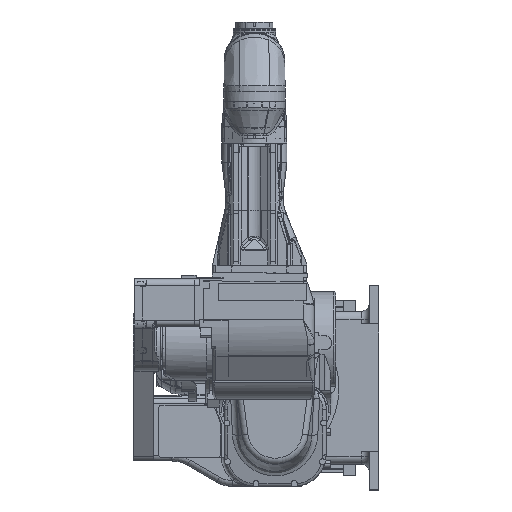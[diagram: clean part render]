
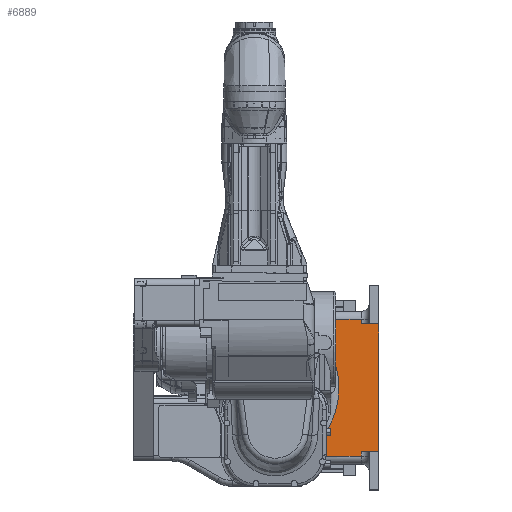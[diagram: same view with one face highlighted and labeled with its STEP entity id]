
A CAD part, top view. The second image highlights one B-rep face of the part: STEP entity #6889.
In plain terms, the highlighted planar face has unit normal (0, 0, 1).
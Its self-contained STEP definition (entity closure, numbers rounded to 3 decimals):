
#3452=CARTESIAN_POINT('Vertex',(335.,-200.,172.)) ;
#3457=CARTESIAN_POINT('Line Origine',(335.,-21.5,172.)) ;
#3461=CARTESIAN_POINT('Vertex',(335.,-215.,172.)) ;
#3497=CARTESIAN_POINT('Vertex',(390.,-200.,172.)) ;
#3500=CARTESIAN_POINT('Line Origine',(362.5,-200.,172.)) ;
#3632=CARTESIAN_POINT('Vertex',(166.,-206.565,172.)) ;
#3635=CARTESIAN_POINT('Axis2P3D Location',(0.,0.,172.)) ;
#3639=CARTESIAN_POINT('Vertex',(265.,0.,172.)) ;
#3642=CARTESIAN_POINT('Axis2P3D Location',(0.,0.,172.)) ;
#3646=CARTESIAN_POINT('Vertex',(166.,206.565,172.)) ;
#5491=CARTESIAN_POINT('Vertex',(390.,200.,172.)) ;
#5494=CARTESIAN_POINT('Line Origine',(390.,0.,172.)) ;
#5693=CARTESIAN_POINT('Vertex',(335.,200.,172.)) ;
#5696=CARTESIAN_POINT('Line Origine',(362.5,200.,172.)) ;
#5725=CARTESIAN_POINT('Vertex',(335.,215.,172.)) ;
#5728=CARTESIAN_POINT('Line Origine',(335.,21.5,172.)) ;
#6576=CARTESIAN_POINT('Vertex',(166.,-215.,172.)) ;
#6579=CARTESIAN_POINT('Line Origine',(166.,-210.782,172.)) ;
#6854=CARTESIAN_POINT('Axis2P3D Location',(0.,0.,172.)) ;
#6859=CARTESIAN_POINT('Line Origine',(250.5,-215.,172.)) ;
#6864=CARTESIAN_POINT('Line Origine',(250.5,215.,172.)) ;
#6868=CARTESIAN_POINT('Vertex',(166.,215.,172.)) ;
#6871=CARTESIAN_POINT('Line Origine',(166.,210.782,172.)) ;
#3458=DIRECTION('Vector Direction',(0.,-1.,0.)) ;
#3501=DIRECTION('Vector Direction',(1.,0.,0.)) ;
#3636=DIRECTION('Axis2P3D Direction',(0.,0.,-1.)) ;
#3643=DIRECTION('Axis2P3D Direction',(0.,0.,-1.)) ;
#5495=DIRECTION('Vector Direction',(0.,-1.,0.)) ;
#5697=DIRECTION('Vector Direction',(1.,0.,0.)) ;
#5729=DIRECTION('Vector Direction',(0.,1.,0.)) ;
#6580=DIRECTION('Vector Direction',(0.,-1.,0.)) ;
#6855=DIRECTION('Axis2P3D Direction',(0.,0.,-1.)) ;
#6856=DIRECTION('Axis2P3D XDirection',(0.,-1.,0.)) ;
#6860=DIRECTION('Vector Direction',(-1.,0.,0.)) ;
#6865=DIRECTION('Vector Direction',(1.,0.,0.)) ;
#6872=DIRECTION('Vector Direction',(0.,-1.,0.)) ;
#3637=AXIS2_PLACEMENT_3D('Circle Axis2P3D',#3635,#3636,$) ;
#3644=AXIS2_PLACEMENT_3D('Circle Axis2P3D',#3642,#3643,$) ;
#6857=AXIS2_PLACEMENT_3D('Plane Axis2P3D',#6854,#6855,#6856) ;
#6877=ORIENTED_EDGE('',*,*,#6863,.F.) ;
#6878=ORIENTED_EDGE('',*,*,#3463,.T.) ;
#6879=ORIENTED_EDGE('',*,*,#3504,.T.) ;
#6880=ORIENTED_EDGE('',*,*,#5498,.F.) ;
#6881=ORIENTED_EDGE('',*,*,#5700,.T.) ;
#6882=ORIENTED_EDGE('',*,*,#5732,.T.) ;
#6883=ORIENTED_EDGE('',*,*,#6870,.F.) ;
#6884=ORIENTED_EDGE('',*,*,#6875,.T.) ;
#6885=ORIENTED_EDGE('',*,*,#3648,.F.) ;
#6886=ORIENTED_EDGE('',*,*,#3641,.F.) ;
#6887=ORIENTED_EDGE('',*,*,#6583,.T.) ;
#3459=VECTOR('Line Direction',#3458,1.) ;
#3502=VECTOR('Line Direction',#3501,1.) ;
#5496=VECTOR('Line Direction',#5495,1.) ;
#5698=VECTOR('Line Direction',#5697,1.) ;
#5730=VECTOR('Line Direction',#5729,1.) ;
#6581=VECTOR('Line Direction',#6580,1.) ;
#6861=VECTOR('Line Direction',#6860,1.) ;
#6866=VECTOR('Line Direction',#6865,1.) ;
#6873=VECTOR('Line Direction',#6872,1.) ;
#6889=ADVANCED_FACE('UNIT BASE_KJ264(tana).1\\60360-0447 BASE.1\\\X2\FF8AFF9FFF70FF82\X0\ \X2\FF8EFF9EFF83FF9EFF68FF70\X0\',(#6888),#6858,.F.) ;
#3638=CIRCLE('generated circle',#3637,265.) ;
#3645=CIRCLE('generated circle',#3644,265.) ;
#3463=EDGE_CURVE('',#3462,#3453,#3460,.F.) ;
#3504=EDGE_CURVE('',#3453,#3498,#3503,.T.) ;
#3641=EDGE_CURVE('',#3633,#3640,#3638,.F.) ;
#3648=EDGE_CURVE('',#3640,#3647,#3645,.F.) ;
#5498=EDGE_CURVE('',#5492,#3498,#5497,.T.) ;
#5700=EDGE_CURVE('',#5492,#5694,#5699,.F.) ;
#5732=EDGE_CURVE('',#5694,#5726,#5731,.T.) ;
#6583=EDGE_CURVE('',#3633,#6577,#6582,.T.) ;
#6863=EDGE_CURVE('',#3462,#6577,#6862,.T.) ;
#6870=EDGE_CURVE('',#6869,#5726,#6867,.T.) ;
#6875=EDGE_CURVE('',#6869,#3647,#6874,.T.) ;
#6876=EDGE_LOOP('',(#6877,#6878,#6879,#6880,#6881,#6882,#6883,#6884,#6885,#6886,#6887)) ;
#6888=FACE_OUTER_BOUND('',#6876,.T.) ;
#3460=LINE('Line',#3457,#3459) ;
#3503=LINE('Line',#3500,#3502) ;
#5497=LINE('Line',#5494,#5496) ;
#5699=LINE('Line',#5696,#5698) ;
#5731=LINE('Line',#5728,#5730) ;
#6582=LINE('Line',#6579,#6581) ;
#6862=LINE('Line',#6859,#6861) ;
#6867=LINE('Line',#6864,#6866) ;
#6874=LINE('Line',#6871,#6873) ;
#6858=PLANE('',#6857) ;
#3453=VERTEX_POINT('',#3452) ;
#3462=VERTEX_POINT('',#3461) ;
#3498=VERTEX_POINT('',#3497) ;
#3633=VERTEX_POINT('',#3632) ;
#3640=VERTEX_POINT('',#3639) ;
#3647=VERTEX_POINT('',#3646) ;
#5492=VERTEX_POINT('',#5491) ;
#5694=VERTEX_POINT('',#5693) ;
#5726=VERTEX_POINT('',#5725) ;
#6577=VERTEX_POINT('',#6576) ;
#6869=VERTEX_POINT('',#6868) ;
